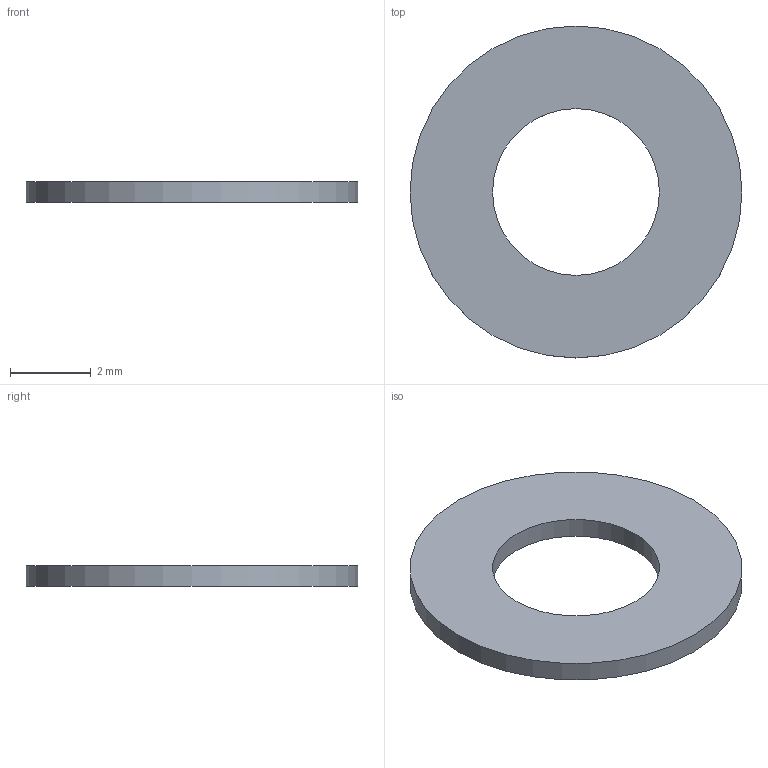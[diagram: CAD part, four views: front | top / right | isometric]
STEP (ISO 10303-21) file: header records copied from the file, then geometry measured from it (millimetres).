
FILE_DESCRIPTION(('Open CASCADE Model'),'2;1');
FILE_NAME('Open CASCADE Shape Model','2026-09-24T19:52:59',('Author'),( 'Open CASCADE'),'Open CASCADE STEP processor 7.8','Open CASCADE 7.8' ,'Unknown');
FILE_SCHEMA(('AUTOMOTIVE_DESIGN { 1 0 10303 214 1 1 1 1 }'));
Length unit declared in the file: millimetre
Products named in the file (1): Open CASCADE STEP translator 7.8 54
Bounding box: 8.2 x 8.2 x 0.5 mm (x, y, z)
Volume: 19.7 mm3; surface area: 98.3 mm2
Topology: 1 solids, 1 shells, 4 faces, 6 edges, 4 vertices
Faces by surface type: cylinder 2, plane 2
Full cylindrical faces by diameter (mm): 4.12 x1, 8.2 x1
Entity records: 186 total; most frequent: DIRECTION 32, CARTESIAN_POINT 27, ORIENTED_EDGE 12, PCURVE 12, DEFINITIONAL_REPRESENTATION 12, LINE 10, VECTOR 10, AXIS2_PLACEMENT_3D 9
